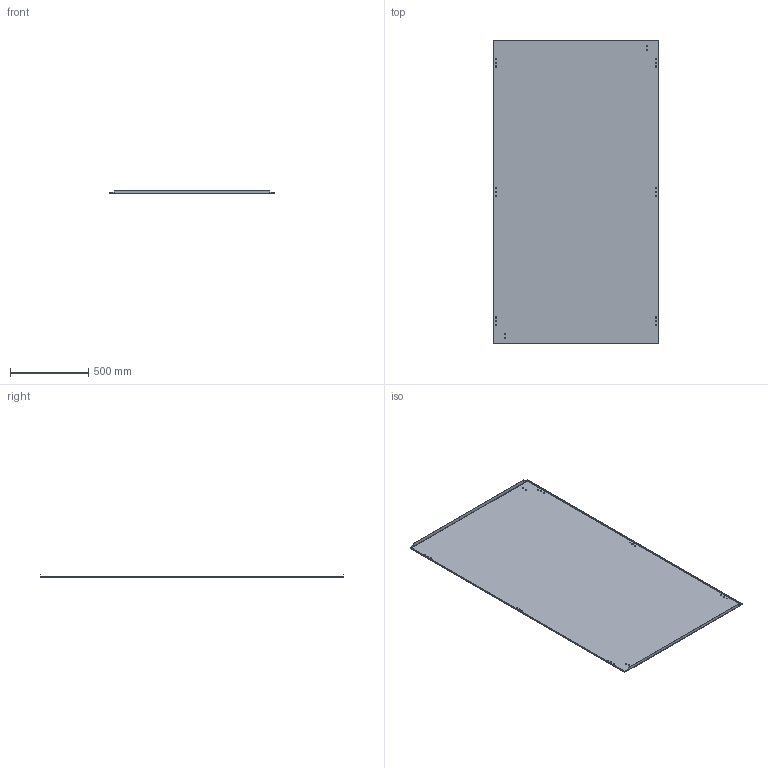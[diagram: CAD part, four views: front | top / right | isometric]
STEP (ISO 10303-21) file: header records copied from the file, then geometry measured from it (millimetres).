
FILE_DESCRIPTION (( 'STEP AP203' ), '1' );
FILE_NAME ('pb2011b.STEP', '2009-06-04T18:09:01', ( 'Hoffman User' ), ( 'Hoffman Enclosures' ), 'SwSTEP 2.0', 'SolidWorks 2007', '' );
FILE_SCHEMA (( 'CONFIG_CONTROL_DESIGN' ));
Length unit declared in the file: inch
Products named in the file (2): 87950971; pb2011b
Assembly tree (1 placements, depth 2):
  pb2011b
    87950971
Bounding box: 1058.84 x 1939.04 x 23.55 mm (x, y, z)
Volume: 2974196 mm3; surface area: 4267300.5 mm2
Topology: 1 solids, 1 shells, 124 faces, 316 edges, 200 vertices
Faces by surface type: plane 68, cylinder 48, bspline 8
Entity records: 4332 total; most frequent: CARTESIAN_POINT 1072, ORIENTED_EDGE 632, DIRECTION 608, EDGE_CURVE 316, VECTOR 208, LINE 208, AXIS2_PLACEMENT_3D 200, VERTEX_POINT 200
